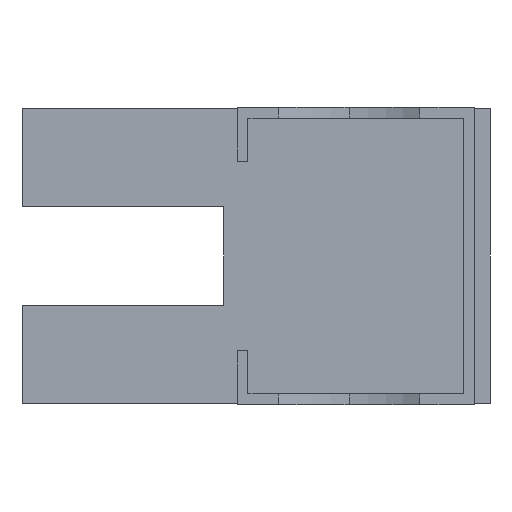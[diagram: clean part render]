
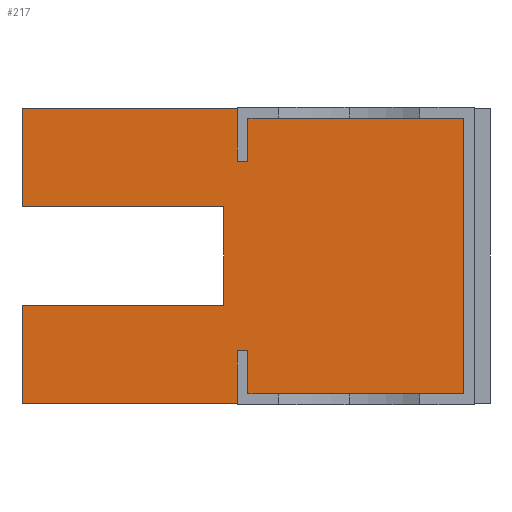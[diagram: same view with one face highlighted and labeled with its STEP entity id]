
A CAD part, left-side view. The second image highlights one B-rep face of the part: STEP entity #217.
In plain terms, the highlighted planar face has unit normal (-1, 0, 0).
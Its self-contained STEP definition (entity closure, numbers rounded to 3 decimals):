
#63 = CARTESIAN_POINT ( 'NONE',  ( -16.3, 16.3, 7.3 ) ) ;
#96 = VERTEX_POINT ( 'NONE', #733 ) ;
#101 = CARTESIAN_POINT ( 'NONE',  ( -16.3, -51., -21.9 ) ) ;
#127 = VERTEX_POINT ( 'NONE', #494 ) ;
#147 = LINE ( 'NONE', #1223, #748 ) ;
#157 = PLANE ( 'NONE',  #987 ) ;
#217 = ADVANCED_FACE ( 'NONE', ( #1238 ), #157, .F. ) ;
#227 = DIRECTION ( 'NONE',  ( 0., -1., 0. ) ) ;
#231 = VERTEX_POINT ( 'NONE', #1344 ) ;
#235 = EDGE_CURVE ( 'NONE', #735, #355, #1442, .T. ) ;
#281 = DIRECTION ( 'NONE',  ( 1., 0., 0. ) ) ;
#301 = DIRECTION ( 'NONE',  ( 0., 1., 0. ) ) ;
#308 = CARTESIAN_POINT ( 'NONE',  ( -16.3, 16.3, -21.9 ) ) ;
#355 = VERTEX_POINT ( 'NONE', #1274 ) ;
#370 = ORIENTED_EDGE ( 'NONE', *, *, #995, .F. ) ;
#378 = EDGE_LOOP ( 'NONE', ( #1173, #499, #782, #1115, #370, #1380, #592, #1053 ) ) ;
#405 = CARTESIAN_POINT ( 'NONE',  ( -16.3, -13.7, 7.3 ) ) ;
#442 = VECTOR ( 'NONE', #301, 1000. ) ;
#494 = CARTESIAN_POINT ( 'NONE',  ( -16.3, 16.3, 7.3 ) ) ;
#499 = ORIENTED_EDGE ( 'NONE', *, *, #1012, .F. ) ;
#513 = EDGE_CURVE ( 'NONE', #231, #735, #578, .T. ) ;
#547 = VECTOR ( 'NONE', #867, 1000. ) ;
#578 = LINE ( 'NONE', #587, #697 ) ;
#587 = CARTESIAN_POINT ( 'NONE',  ( -16.3, 16.3, -7.3 ) ) ;
#592 = ORIENTED_EDGE ( 'NONE', *, *, #1168, .T. ) ;
#617 = DIRECTION ( 'NONE',  ( 0., 1., 0. ) ) ;
#624 = VECTOR ( 'NONE', #1349, 1000. ) ;
#631 = EDGE_CURVE ( 'NONE', #937, #1062, #147, .T. ) ;
#649 = LINE ( 'NONE', #63, #442 ) ;
#656 = CARTESIAN_POINT ( 'NONE',  ( -16.3, -49.4, -21.9 ) ) ;
#676 = DIRECTION ( 'NONE',  ( 0., 1., 0. ) ) ;
#689 = CARTESIAN_POINT ( 'NONE',  ( -16.3, -49.4, 22.1 ) ) ;
#697 = VECTOR ( 'NONE', #227, 1000. ) ;
#700 = LINE ( 'NONE', #101, #1303 ) ;
#733 = CARTESIAN_POINT ( 'NONE',  ( -16.3, 16.3, -21.9 ) ) ;
#735 = VERTEX_POINT ( 'NONE', #1364 ) ;
#748 = VECTOR ( 'NONE', #617, 1000. ) ;
#782 = ORIENTED_EDGE ( 'NONE', *, *, #235, .F. ) ;
#803 = CARTESIAN_POINT ( 'NONE',  ( -16.3, -49.4, 21.9 ) ) ;
#867 = DIRECTION ( 'NONE',  ( 0., 0., 1. ) ) ;
#870 = VECTOR ( 'NONE', #1468, 1000. ) ;
#874 = DIRECTION ( 'NONE',  ( 0., 0., -1. ) ) ;
#875 = EDGE_CURVE ( 'NONE', #1061, #96, #700, .T. ) ;
#896 = CARTESIAN_POINT ( 'NONE',  ( -16.3, 16.3, 21.9 ) ) ;
#917 = VECTOR ( 'NONE', #1382, 1000. ) ;
#927 = LINE ( 'NONE', #689, #917 ) ;
#937 = VERTEX_POINT ( 'NONE', #803 ) ;
#979 = CARTESIAN_POINT ( 'NONE',  ( -16.3, -51., -21.9 ) ) ;
#987 = AXIS2_PLACEMENT_3D ( 'NONE', #979, #281, #874 ) ;
#995 = EDGE_CURVE ( 'NONE', #96, #231, #1343, .T. ) ;
#1012 = EDGE_CURVE ( 'NONE', #355, #127, #649, .T. ) ;
#1018 = CARTESIAN_POINT ( 'NONE',  ( -16.3, 16.3, -21.9 ) ) ;
#1053 = ORIENTED_EDGE ( 'NONE', *, *, #631, .T. ) ;
#1061 = VERTEX_POINT ( 'NONE', #656 ) ;
#1062 = VERTEX_POINT ( 'NONE', #896 ) ;
#1080 = EDGE_CURVE ( 'NONE', #127, #1062, #1335, .T. ) ;
#1115 = ORIENTED_EDGE ( 'NONE', *, *, #513, .F. ) ;
#1168 = EDGE_CURVE ( 'NONE', #1061, #937, #927, .T. ) ;
#1173 = ORIENTED_EDGE ( 'NONE', *, *, #1080, .F. ) ;
#1223 = CARTESIAN_POINT ( 'NONE',  ( -16.3, -51., 21.9 ) ) ;
#1238 = FACE_OUTER_BOUND ( 'NONE', #378, .T. ) ;
#1274 = CARTESIAN_POINT ( 'NONE',  ( -16.3, -13.7, 7.3 ) ) ;
#1303 = VECTOR ( 'NONE', #676, 1000. ) ;
#1335 = LINE ( 'NONE', #1018, #624 ) ;
#1343 = LINE ( 'NONE', #308, #870 ) ;
#1344 = CARTESIAN_POINT ( 'NONE',  ( -16.3, 16.3, -7.3 ) ) ;
#1349 = DIRECTION ( 'NONE',  ( 0., 0., 1. ) ) ;
#1364 = CARTESIAN_POINT ( 'NONE',  ( -16.3, -13.7, -7.3 ) ) ;
#1380 = ORIENTED_EDGE ( 'NONE', *, *, #875, .F. ) ;
#1382 = DIRECTION ( 'NONE',  ( 0., 0., 1. ) ) ;
#1442 = LINE ( 'NONE', #405, #547 ) ;
#1468 = DIRECTION ( 'NONE',  ( 0., 0., 1. ) ) ;
